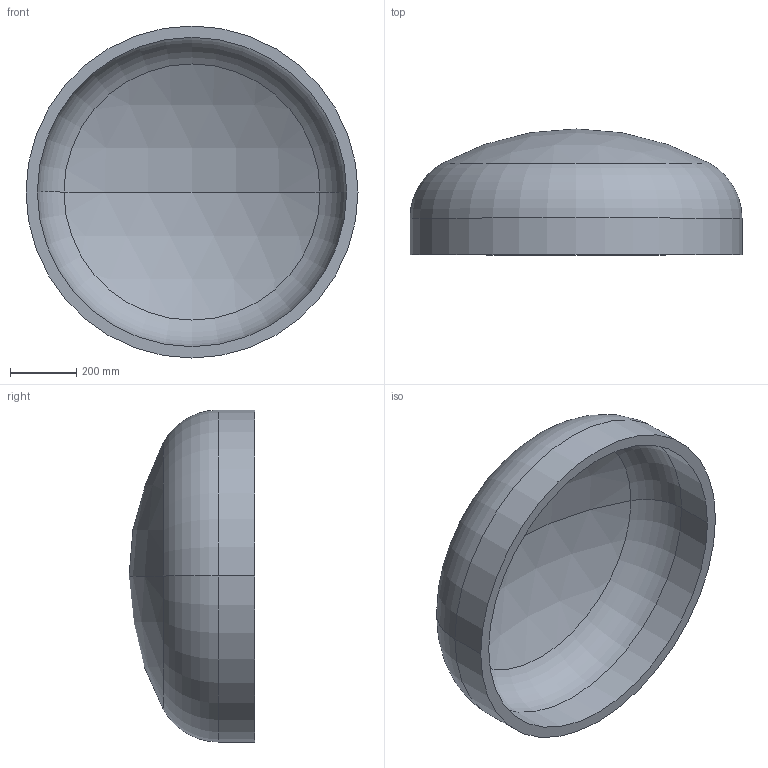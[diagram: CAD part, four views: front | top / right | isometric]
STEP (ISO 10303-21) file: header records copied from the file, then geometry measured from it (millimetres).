
FILE_DESCRIPTION (( 'STEP AP203' ), '1' );
FILE_NAME ('DIN 28013 Korbbogenform_-_Boden DIN 28013 - 1000 x 110 - I - s=34.step', '2016-07-01T08:47:26', ( '' ), ( '' ), 'SwSTEP 2.0', 'SolidWorks 2013', '' );
FILE_SCHEMA (( 'CONFIG_CONTROL_DESIGN' ));
Length unit declared in the file: millimetre
Products named in the file (1): DIN 28013 Korbbogenform_-_Boden DIN 28013 - 1000 x 110 - I - s=34
Bounding box: 1000 x 378.93 x 1000 mm (x, y, z)
Volume: 46778765.5 mm3; surface area: 2857295 mm2
Topology: 1 solids, 1 shells, 13 faces, 24 edges, 14 vertices
Faces by surface type: torus 4, cylinder 4, sphere 4, plane 1
Entity records: 407 total; most frequent: DIRECTION 72, CARTESIAN_POINT 52, ORIENTED_EDGE 48, AXIS2_PLACEMENT_3D 34, EDGE_CURVE 24, CIRCLE 20, EDGE_LOOP 14, VERTEX_POINT 14
